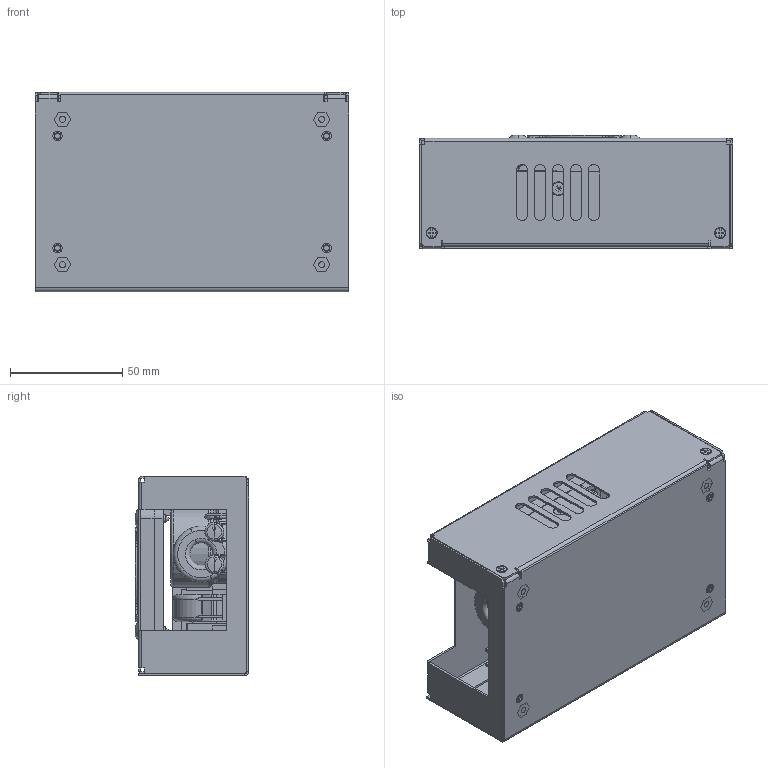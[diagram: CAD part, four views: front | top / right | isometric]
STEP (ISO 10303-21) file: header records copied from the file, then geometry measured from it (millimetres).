
FILE_DESCRIPTION (( 'STEP AP214' ), '1' );
FILE_NAME ('CLC175-MTF.STEP', '2010-09-16T16:59:23', ( 'Your User Name' ), ( 'Your Organization Name' ), 'SwSTEP 2.0', 'SolidWorks 2010', '' );
FILE_SCHEMA (( 'AUTOMOTIVE_DESIGN' ));
Length unit declared in the file: inch
Products named in the file (37): BOTTOM COVER 1000935101; CLC175-MTF; 1000627303; CLC175; INSULATOR 10006903; SO-35M3-7; IND-TOR_25 ODX12mm; CON MLX  .156 3P; CON Quick-Fit .250 -01; 1000627203; CON MLX  .156 08P; Bridge Rectifier_GBU6K_01_Lead trimed; Screw_Sq Cone_no 4_01_.250"; Screw_Flat Head Phillips (Metric)_(1212)_M2.5 x 5; PLASTIC-FAN FASTERNER-1; Fan 60mm x 10mm_FAN 60X10MM; S-M3-0; Capacitor Elec_06mm D_13mm H; Capacitor Disc_0.300 D; CAP-MLC-01; TOP COVER 1000929901; Capacitor Disc_0.550 D_0.400" C; NUT-HEX_M3.0; Capacitor Elec_10mm D_25mm; SCREW-PFH(90)_M3.0x06; SCREW-PPH_M3.0X06; TO-220_3P-1; CAP FILM_26X10X19MM_22LS; XFR-04; Cap-Elec-35mm D_30mm H; CON JST_S10B-PHDSS-B_Vertical; 10006969B0; POT_TOP-ADJ_01; CON MLX  .100 2P; Capacitor Film_12x5mm_10 LS
Assembly tree (82 placements, depth 3):
  CLC175-MTF
    Screw_Flat Head Phillips (Metric)_(1212)_M2.5 x 5  x4
    BOTTOM COVER 1000935101
      SO-35M3-7  x4
      S-M3-0  x8
      BOTTOM COVER 1000935101
    TOP COVER 1000929901
      PLASTIC-FAN FASTERNER-1  x4
      Fan 60mm x 10mm_FAN 60X10MM
      S-M3-0  x2
      TOP COVER 1000929901
    INSULATOR 10006903
    CLC175
      TO-220_3P-1  x3
      Capacitor Film_12x5mm_10 LS  x3
      Bridge Rectifier_GBU6K_01_Lead trimed
      Capacitor Disc_0.300 D  x6
      NUT-HEX_M3.0  x3
      CAP FILM_26X10X19MM_22LS  x2
      CON MLX  .156 3P
      1000627303
      Capacitor Elec_10mm D_25mm  x5
      XFR-04  x2
      SCREW-PFH(90)_M3.0x06  x3
      Capacitor Elec_06mm D_13mm H  x4
      CON JST_S10B-PHDSS-B_Vertical
      IND-TOR_25 ODX12mm  x2
      SCREW-PPH_M3.0X06  x2
      CAP-MLC-01  x2
      1000627203
      CON MLX  .156 08P
      POT_TOP-ADJ_01
      CON Quick-Fit .250 -01
      10006969B0
      Capacitor Disc_0.550 D_0.400" C
      CON MLX  .100 2P
      Cap-Elec-35mm D_30mm H
    Screw_Sq Cone_no 4_01_.250"  x4
Bounding box: 139.78 x 50.7 x 88.9 mm (x, y, z)
Volume: 171229.1 mm3; surface area: 190568.7 mm2
Topology: 79 solids, 88 shells, 3608 faces, 8459 edges, 5301 vertices
Faces by surface type: plane 1691, cylinder 1222, cone 398, torus 236, bspline 49, sphere 12
Entity records: 84197 total; most frequent: CARTESIAN_POINT 14622, DIRECTION 11502, ORIENTED_EDGE 10638, EDGE_CURVE 5319, AXIS2_PLACEMENT_3D 4152, VERTEX_POINT 3416, LINE 3198, VECTOR 3198
